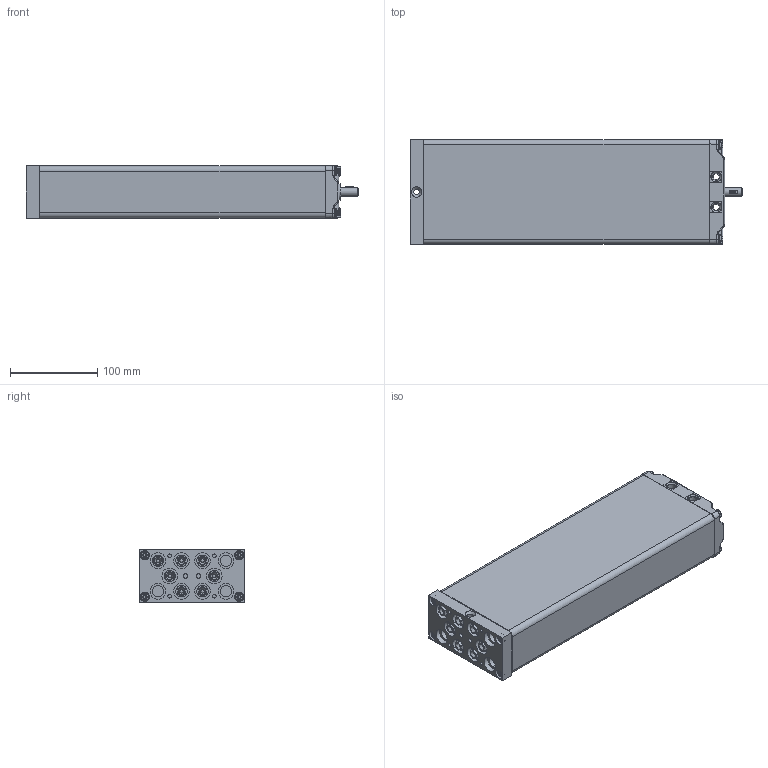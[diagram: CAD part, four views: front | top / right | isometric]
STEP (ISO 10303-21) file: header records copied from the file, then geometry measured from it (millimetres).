
FILE_DESCRIPTION(/* description */ ('Unknown'),/* implementation_level */ '2;1');
FILE_NAME(/* name */ '102.20262 Pumpe PB 7820 W',/* time_stamp */ '2016-11-25T10:14:56+01:00',/* author */ ('Unknown'),/* organization */ ('Unknown'),/* preprocessor_version */ 'ST-DEVELOPER v16.7',/* originating_system */ 'DEX',/* authorisation */ $);
FILE_SCHEMA (('AUTOMOTIVE_DESIGN {1 0 10303 214 3 1 1}'));
Products named in the file (16): 102.20262; 115.10032; 125.00061; 115.00008; 142.00021; 125.00021; 142.00013; 125.00142; 115.00140; 126.00006; 122.00040; 119.00042; 126.00036; 142.00057; 142.00083; 142.00017
Assembly tree (32 placements, depth 3):
  102.20262
    115.10032  x7
      125.00061
      115.00008
      142.00021
      125.00021
    142.00013  x8
    125.00142
    115.00140
      126.00006
      122.00040
    119.00042
    126.00036
    142.00057
    142.00083  x4
    142.00017  x2
Bounding box: 380.5 x 120 x 60.3 mm (x, y, z)
Volume: 529066.4 mm3; surface area: 343378.4 mm2
Topology: 41 solids, 41 shells, 2099 faces, 4781 edges, 2789 vertices
Faces by surface type: plane 739, cylinder 476, bspline 377, cone 342, torus 108, sphere 57
Full cylindrical faces by diameter (mm): 3.5 x7, 4.1 x7, 4.134 x4, 4.2 x7, 4.917 x2, 5 x12, 5.8 x4, 6 x2, 6.8 x1, 6.917 x14, 8 x15, 8.5 x4, 9.8 x8, 10 x5, 10.4 x1, 10.5 x4, 12.5 x7, 13 x24, 14 x1, 14.4 x7, 17.9 x14, 18 x11, 19 x1
Entity records: 60391 total; most frequent: CARTESIAN_POINT 28876, ORIENTED_EDGE 5076, DIRECTION 4433, EDGE_CURVE 2538, AXIS2_PLACEMENT_3D 1720, VERTEX_POINT 1603, FACE_BOUND 1413, EDGE_LOOP 1412
